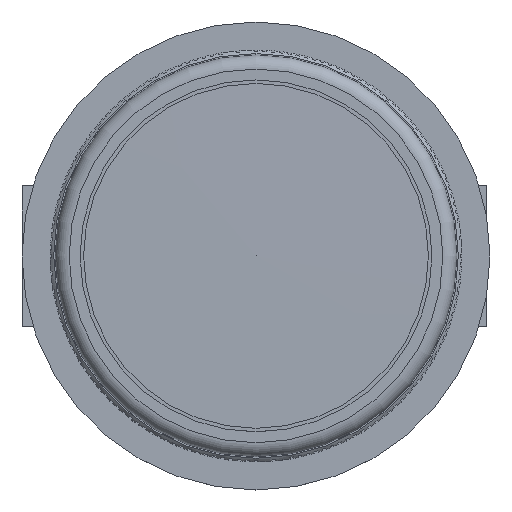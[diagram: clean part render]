
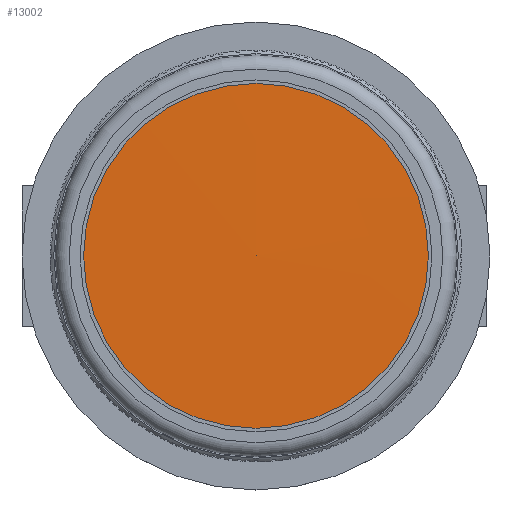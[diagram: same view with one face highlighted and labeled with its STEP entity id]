
A CAD part, top view. The second image highlights one B-rep face of the part: STEP entity #13002.
In plain terms, the highlighted conical face has half-angle 89.81 degrees and reference radius 12.25 mm.
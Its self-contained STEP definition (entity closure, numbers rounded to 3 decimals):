
#61=CONICAL_SURFACE('',#14076,12.25,1.567);
#2014=LINE('',#21496,#3416);
#3416=VECTOR('',#17314,12.25);
#4271=FACE_OUTER_BOUND('',#4933,.T.);
#4933=EDGE_LOOP('',(#12073,#12074,#12075));
#5315=CIRCLE('',#14077,24.501);
#6544=VERTEX_POINT('',#21493);
#6545=VERTEX_POINT('',#21495);
#8406=EDGE_CURVE('',#6544,#6544,#5315,.T.);
#8407=EDGE_CURVE('',#6544,#6545,#2014,.T.);
#12073=ORIENTED_EDGE('',*,*,#8406,.F.);
#12074=ORIENTED_EDGE('',*,*,#8407,.T.);
#12075=ORIENTED_EDGE('',*,*,#8407,.F.);
#13002=ADVANCED_FACE('',(#4271),#61,.T.);
#14076=AXIS2_PLACEMENT_3D('',#21492,#17310,#17311);
#14077=AXIS2_PLACEMENT_3D('',#21494,#17312,#17313);
#17310=DIRECTION('center_axis',(1.,0.,0.));
#17311=DIRECTION('ref_axis',(0.,1.,0.));
#17312=DIRECTION('center_axis',(1.,0.,0.));
#17313=DIRECTION('ref_axis',(0.,0.,-1.));
#17314=DIRECTION('',(-0.003,1.,0.));
#21492=CARTESIAN_POINT('Origin',(167.394,108.808,0.));
#21493=CARTESIAN_POINT('',(167.435,84.307,0.));
#21494=CARTESIAN_POINT('Origin',(167.435,108.808,0.));
#21495=CARTESIAN_POINT('',(167.353,108.808,0.));
#21496=CARTESIAN_POINT('',(167.394,96.558,0.));
